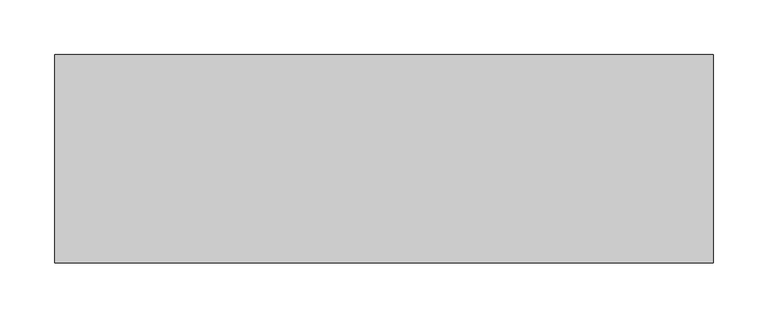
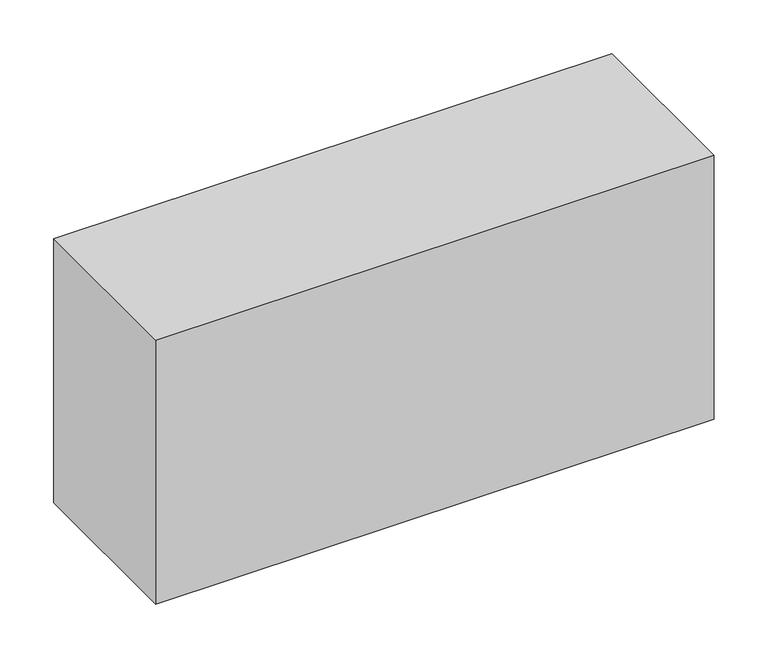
"""IFC4 building model written with IfcOpenShell, lengths in millimetres: proxy geometry, Módulo de Vedação de Concreto Celular - Celucon : MVCC 19x30x60cm (L x A x C)."""

from ifc_helpers import new_model, si_unit, origin, origin_with_axes, place, context, project, spatial, polyline, outline, extrude, source, transform, mapped, element, save


def generic_models_9379f522(model_context):
    return source(origin(), model_context, "Body", "SweptSolid", [
        extrude(outline(polyline([(300.0, 95.0), (300.0, -95.0), (-300.0, -95.0), (-300.0, 95.0), (300.0, 95.0)])), origin_with_axes(), (0.0, 0.0, 1.0), 300.0),
    ])


if __name__ == "__main__":
    model = new_model("IFC4")
    model_context = context("Model", 3, world=origin())
    ifc_project = project(units=[si_unit("LENGTHUNIT", "METRE", prefix="MILLI")], contexts=[model_context])
    site = spatial("IfcSite", under=ifc_project)
    building = spatial("IfcBuilding", under=site)
    placement = place(None, origin())
    generic_models_shape = generic_models_9379f522(model_context)
    element("IfcBuildingElementProxy", 1, Name="Módulo de Vedação de Concreto Celular - Celucon : MVCC 19x30x60cm (L x A x C)", ObjectType="Módulo de Vedação de Concreto Celular - Celucon : MVCC 19x30x60cm (L x A x C)", at=placement, inside=building, context=model_context, shape_type="MappedRepresentation", body=[
        mapped(generic_models_shape, transform((0.0, 0.0, 0.0), x_axis=(1.0, 0.0, 0.0), y_axis=(0.0, 1.0, 0.0), z_axis=(0.0, 0.0, 1.0))),
    ])
    save(model, "model.ifc")
